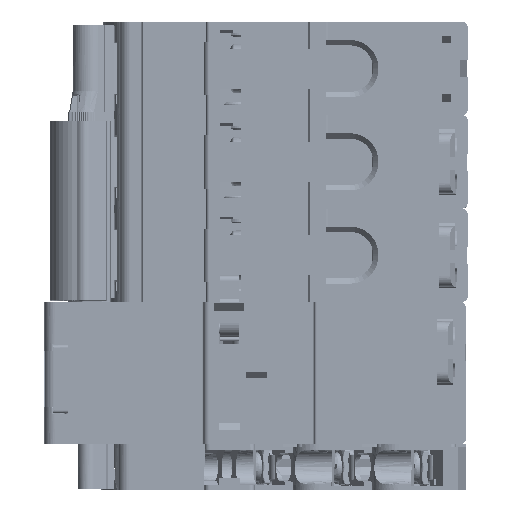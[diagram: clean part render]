
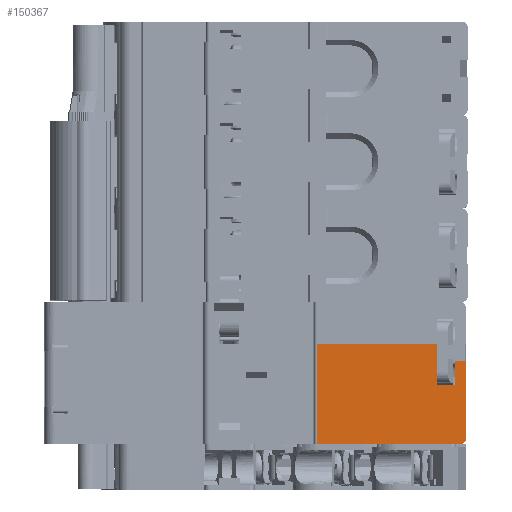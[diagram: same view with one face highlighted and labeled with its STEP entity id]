
A CAD part, left-side view. The second image highlights one B-rep face of the part: STEP entity #150367.
In plain terms, the highlighted planar face has unit normal (-1, 0, 0).
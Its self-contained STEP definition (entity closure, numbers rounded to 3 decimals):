
#473 = DIRECTION ( 'NONE',  ( -1., 0., 0. ) ) ;
#11574 = DIRECTION ( 'NONE',  ( 0., 0., -1. ) ) ;
#14170 = CARTESIAN_POINT ( 'NONE',  ( -147.889, -72.135, -50.014 ) ) ;
#17338 = VERTEX_POINT ( 'NONE', #258477 ) ;
#19653 = CARTESIAN_POINT ( 'NONE',  ( -147.889, -71.135, -35.214 ) ) ;
#23137 = CARTESIAN_POINT ( 'NONE',  ( -147.889, -45.035, -51.014 ) ) ;
#24622 = AXIS2_PLACEMENT_3D ( 'NONE', #14170, #78232, #101197 ) ;
#27735 = FACE_OUTER_BOUND ( 'NONE', #209598, .T. ) ;
#28157 = VERTEX_POINT ( 'NONE', #208432 ) ;
#29487 = VECTOR ( 'NONE', #128490, 1000. ) ;
#31580 = DIRECTION ( 'NONE',  ( 0., -1., 0. ) ) ;
#33903 = DIRECTION ( 'NONE',  ( 0., 0., -1. ) ) ;
#36899 = LINE ( 'NONE', #78326, #231721 ) ;
#37616 = VERTEX_POINT ( 'NONE', #61681 ) ;
#38840 = EDGE_CURVE ( 'NONE', #232979, #28157, #182440, .T. ) ;
#50084 = LINE ( 'NONE', #259085, #29487 ) ;
#55313 = LINE ( 'NONE', #19653, #270536 ) ;
#56648 = CARTESIAN_POINT ( 'NONE',  ( -147.889, -67.635, -2.98 ) ) ;
#56984 = EDGE_CURVE ( 'NONE', #77640, #168725, #74193, .T. ) ;
#57578 = DIRECTION ( 'NONE',  ( 0., 0., -1. ) ) ;
#61681 = CARTESIAN_POINT ( 'NONE',  ( -147.889, -67.635, -32.014 ) ) ;
#67823 = CARTESIAN_POINT ( 'NONE',  ( -147.889, -71.135, -39.814 ) ) ;
#70962 = EDGE_CURVE ( 'NONE', #232979, #82122, #55313, .T. ) ;
#73297 = VECTOR ( 'NONE', #89761, 1000. ) ;
#74193 = LINE ( 'NONE', #251241, #227876 ) ;
#76120 = DIRECTION ( 'NONE',  ( 0., 0., -1. ) ) ;
#77640 = VERTEX_POINT ( 'NONE', #180351 ) ;
#78232 = DIRECTION ( 'NONE',  ( -1., 0., 0. ) ) ;
#78326 = CARTESIAN_POINT ( 'NONE',  ( -147.889, -73.135, -51.014 ) ) ;
#82122 = VERTEX_POINT ( 'NONE', #96568 ) ;
#89761 = DIRECTION ( 'NONE',  ( 0., 1., 0. ) ) ;
#96568 = CARTESIAN_POINT ( 'NONE',  ( -147.889, -71.135, -35.214 ) ) ;
#99102 = EDGE_CURVE ( 'NONE', #265141, #28157, #181201, .T. ) ;
#100460 = ORIENTED_EDGE ( 'NONE', *, *, #279309, .T. ) ;
#101197 = DIRECTION ( 'NONE',  ( 0., 0., 1. ) ) ;
#113771 = ORIENTED_EDGE ( 'NONE', *, *, #56984, .T. ) ;
#128490 = DIRECTION ( 'NONE',  ( 0., 1., 0. ) ) ;
#130732 = ORIENTED_EDGE ( 'NONE', *, *, #149292, .F. ) ;
#131441 = PLANE ( 'NONE',  #136327 ) ;
#134330 = CARTESIAN_POINT ( 'NONE',  ( -147.889, -72.135, -51.014 ) ) ;
#136327 = AXIS2_PLACEMENT_3D ( 'NONE', #179016, #473, #222868 ) ;
#136731 = LINE ( 'NONE', #142919, #170916 ) ;
#142728 = ORIENTED_EDGE ( 'NONE', *, *, #38840, .F. ) ;
#142919 = CARTESIAN_POINT ( 'NONE',  ( -147.889, -71.135, -2.98 ) ) ;
#148137 = LINE ( 'NONE', #56648, #229941 ) ;
#149292 = EDGE_CURVE ( 'NONE', #37616, #17338, #148137, .T. ) ;
#150367 = ADVANCED_FACE ( 'NONE', ( #27735 ), #131441, .T. ) ;
#164075 = CARTESIAN_POINT ( 'NONE',  ( -147.889, -73.135, -46.914 ) ) ;
#168725 = VERTEX_POINT ( 'NONE', #23137 ) ;
#168993 = ORIENTED_EDGE ( 'NONE', *, *, #269732, .T. ) ;
#170916 = VECTOR ( 'NONE', #33903, 1000. ) ;
#179016 = CARTESIAN_POINT ( 'NONE',  ( -147.889, -73.135, -2.98 ) ) ;
#180351 = CARTESIAN_POINT ( 'NONE',  ( -147.889, -45.035, -32.014 ) ) ;
#181201 = CIRCLE ( 'NONE', #24622, 1. ) ;
#182440 = LINE ( 'NONE', #164075, #274668 ) ;
#196143 = EDGE_CURVE ( 'NONE', #209152, #17338, #50084, .T. ) ;
#196859 = EDGE_CURVE ( 'NONE', #37616, #77640, #271564, .T. ) ;
#199701 = ORIENTED_EDGE ( 'NONE', *, *, #99102, .T. ) ;
#208432 = CARTESIAN_POINT ( 'NONE',  ( -147.889, -73.135, -50.014 ) ) ;
#209152 = VERTEX_POINT ( 'NONE', #67823 ) ;
#209598 = EDGE_LOOP ( 'NONE', ( #100460, #199701, #142728, #270809, #168993, #212805, #130732, #276268, #113771 ) ) ;
#212805 = ORIENTED_EDGE ( 'NONE', *, *, #196143, .T. ) ;
#222868 = DIRECTION ( 'NONE',  ( 0., 0., 1. ) ) ;
#223163 = CARTESIAN_POINT ( 'NONE',  ( -147.889, -73.135, -35.214 ) ) ;
#227876 = VECTOR ( 'NONE', #11574, 1000. ) ;
#229941 = VECTOR ( 'NONE', #57578, 1000. ) ;
#231721 = VECTOR ( 'NONE', #31580, 1000. ) ;
#232979 = VERTEX_POINT ( 'NONE', #223163 ) ;
#234600 = DIRECTION ( 'NONE',  ( 0., 1., 0. ) ) ;
#251241 = CARTESIAN_POINT ( 'NONE',  ( -147.889, -45.035, -2.98 ) ) ;
#258477 = CARTESIAN_POINT ( 'NONE',  ( -147.889, -67.635, -39.814 ) ) ;
#259085 = CARTESIAN_POINT ( 'NONE',  ( -147.889, -73.135, -39.814 ) ) ;
#263461 = CARTESIAN_POINT ( 'NONE',  ( -147.889, -73.135, -32.014 ) ) ;
#265141 = VERTEX_POINT ( 'NONE', #134330 ) ;
#269732 = EDGE_CURVE ( 'NONE', #82122, #209152, #136731, .T. ) ;
#270536 = VECTOR ( 'NONE', #234600, 1000. ) ;
#270809 = ORIENTED_EDGE ( 'NONE', *, *, #70962, .T. ) ;
#271564 = LINE ( 'NONE', #263461, #73297 ) ;
#274668 = VECTOR ( 'NONE', #76120, 1000. ) ;
#276268 = ORIENTED_EDGE ( 'NONE', *, *, #196859, .T. ) ;
#279309 = EDGE_CURVE ( 'NONE', #168725, #265141, #36899, .T. ) ;
